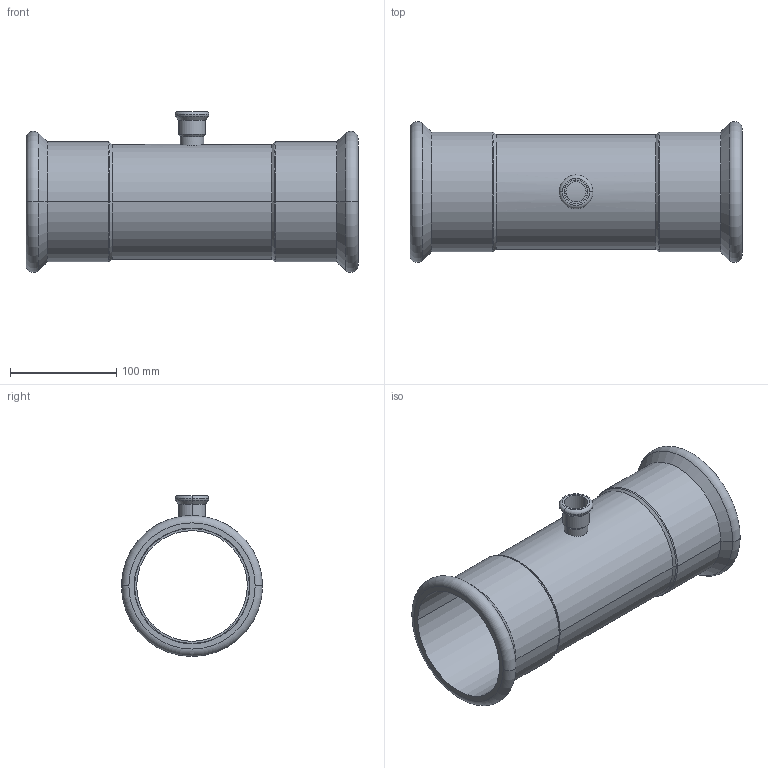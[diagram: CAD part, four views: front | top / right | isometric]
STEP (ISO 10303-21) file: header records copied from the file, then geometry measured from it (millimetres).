
FILE_DESCRIPTION(('CoCreate Modeling STEP Export'),'2;1');
FILE_NAME('C1415 108x22x108.stp','2014-11-12T10:55:43',(''),(''),'CoCreate Modeling STEP processor for AP214 (Solid Model)','CoCreate Modeling 17.00A 17-Jun-2010 (C) Parametric Technology GmbH','');
FILE_SCHEMA(('AUTOMOTIVE_DESIGN { 1 0 10303 214 1 1 1 1 }'));
Length unit declared in the file: millimetre
Products named in the file (2): C1415_108x22x108
Assembly tree (1 placements, depth 2):
  C1415_108x22x108
    C1415_108x22x108
Bounding box: 312 x 132.58 x 151.29 mm (x, y, z)
Volume: 324929.3 mm3; surface area: 231674.3 mm2
Topology: 1 solids, 1 shells, 63 faces, 129 edges, 77 vertices
Faces by surface type: cylinder 29, torus 12, cone 12, plane 10
Entity records: 2488 total; most frequent: CARTESIAN_POINT 1306, ORIENTED_EDGE 258, DIRECTION 208, EDGE_CURVE 129, AXIS2_PLACEMENT_3D 84, VERTEX_POINT 77, EDGE_LOOP 74, FACE_OUTER_BOUND 63
